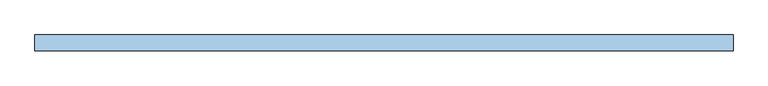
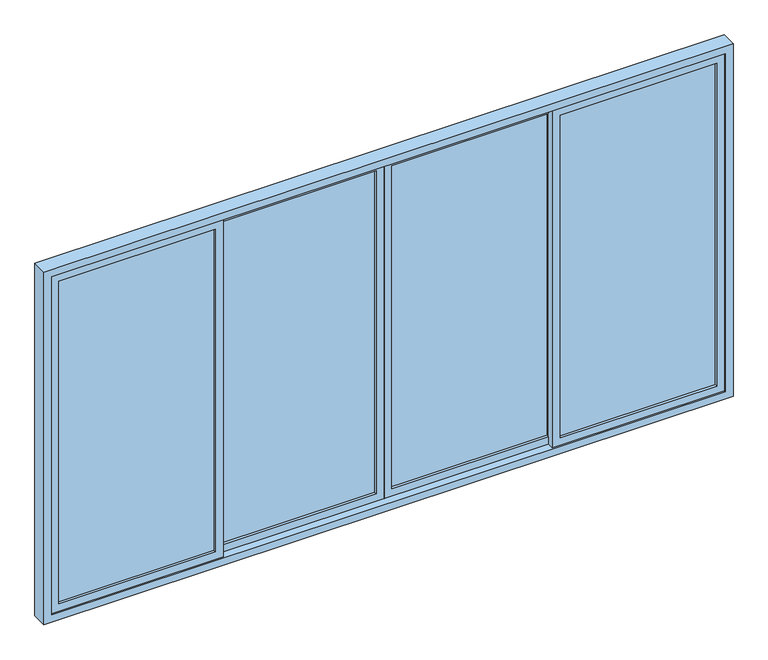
"""IFC4 building model written with IfcOpenShell, lengths in millimetres: window geometry, 四開落地窗- (1) : 2FL_南面_四開落地窗_527 x 285cm."""

from ifc_helpers import new_model, si_unit, frame, origin, place, context, project, spatial, polyline, outline, extrude, source, transform, mapped, element, save


def window_ba3099a8(model_context):
    return source(origin(), model_context, "Body", "SweptSolid", [
        extrude(outline(polyline([(2790.0, -2575.0), (60.0, -2575.0), (60.0, -1257.5), (2790.0, -1257.5), (2790.0, -2575.0)]), holes=[polyline([(2730.0, -2515.0), (2730.0, -1317.5), (120.0, -1317.5), (120.0, -2515.0), (2730.0, -2515.0)])]), frame((0.0, -230.0, 0.0), z_axis=(0.0, 1.0, 0.0), x_axis=(0.0, 0.0, 1.0)), (0.0, 0.0, 1.0), 50.0),
        extrude(outline(polyline([(-1317.5, -200.0), (-1317.5, -210.0), (-2515.0, -210.0), (-2515.0, -200.0), (-1317.5, -200.0)])), frame((0.0, 0.0, 120.0), z_axis=(0.0, 0.0, 1.0), x_axis=(1.0, 0.0, 0.0)), (0.0, 0.0, 1.0), 2610.0),
        extrude(outline(polyline([(2790.0, -1317.5), (60.0, -1317.5), (60.0, 0.0), (2790.0, 0.0), (2790.0, -1317.5)]), holes=[polyline([(2730.0, -1257.5), (2730.0, -60.0), (120.0, -60.0), (120.0, -1257.5), (2730.0, -1257.5)])]), frame((0.0, -180.0, 0.0), z_axis=(0.0, 1.0, 0.0), x_axis=(0.0, 0.0, 1.0)), (0.0, 0.0, 1.0), 50.0),
        extrude(outline(polyline([(-60.0, -160.0), (-1257.5, -160.0), (-1257.5, -150.0), (-60.0, -150.0), (-60.0, -160.0)])), frame((0.0, 0.0, 120.0), z_axis=(0.0, 0.0, 1.0), x_axis=(1.0, 0.0, 0.0)), (0.0, 0.0, 1.0), 2610.0),
        extrude(outline(polyline([(2790.0, 2575.0), (2790.0, 1257.5), (60.0, 1257.5), (60.0, 2575.0), (2790.0, 2575.0)]), holes=[polyline([(2730.0, 2515.0), (120.0, 2515.0), (120.0, 1317.5), (2730.0, 1317.5), (2730.0, 2515.0)])]), frame((0.0, -230.0, 0.0), z_axis=(0.0, 1.0, 0.0), x_axis=(0.0, 0.0, 1.0)), (0.0, 0.0, 1.0), 50.0),
        extrude(outline(polyline([(1317.5, -200.0), (2515.0, -200.0), (2515.0, -210.0), (1317.5, -210.0), (1317.5, -200.0)])), frame((0.0, 0.0, 120.0), z_axis=(0.0, 0.0, 1.0), x_axis=(1.0, 0.0, 0.0)), (0.0, 0.0, 1.0), 2610.0),
        extrude(outline(polyline([(2790.0, 1317.5), (2790.0, 0.0), (60.0, 0.0), (60.0, 1317.5), (2790.0, 1317.5)]), holes=[polyline([(2730.0, 1257.5), (120.0, 1257.5), (120.0, 60.0), (2730.0, 60.0), (2730.0, 1257.5)])]), frame((0.0, -180.0, 0.0), z_axis=(0.0, 1.0, 0.0), x_axis=(0.0, 0.0, 1.0)), (0.0, 0.0, 1.0), 50.0),
        extrude(outline(polyline([(60.0, -160.0), (60.0, -150.0), (1257.5, -150.0), (1257.5, -160.0), (60.0, -160.0)])), frame((0.0, 0.0, 120.0), z_axis=(0.0, 0.0, 1.0), x_axis=(1.0, 0.0, 0.0)), (0.0, 0.0, 1.0), 2610.0),
        extrude(outline(polyline([(2850.0, 2635.0), (2850.0, -2635.0), (0.0, -2635.0), (0.0, 2635.0), (2850.0, 2635.0)]), holes=[polyline([(2790.0, 2575.0), (60.0, 2575.0), (60.0, -2575.0), (2790.0, -2575.0), (2790.0, 2575.0)])]), frame((0.0, -240.0, 0.0), z_axis=(0.0, 1.0, 0.0), x_axis=(0.0, 0.0, 1.0)), (0.0, 0.0, 1.0), 120.0),
    ])


if __name__ == "__main__":
    model = new_model("IFC4")
    model_context = context("Model", 3, world=origin())
    ifc_project = project(units=[si_unit("LENGTHUNIT", "METRE", prefix="MILLI")], contexts=[model_context])
    site = spatial("IfcSite", under=ifc_project)
    building = spatial("IfcBuilding", under=site)
    placement = place(None, origin())
    window_shape = window_ba3099a8(model_context)
    element("IfcWindow", 1, ObjectType="四開落地窗- (1) : 2FL_南面_四開落地窗_527 x 285cm", at=placement, inside=building, context=model_context, shape_type="MappedRepresentation", body=[
        mapped(window_shape, transform((0.0, 0.0, 0.0), x_axis=(1.0, 0.0, 0.0), y_axis=(0.0, 1.0, 0.0), z_axis=(0.0, 0.0, 1.0))),
    ])
    save(model, "model.ifc")
